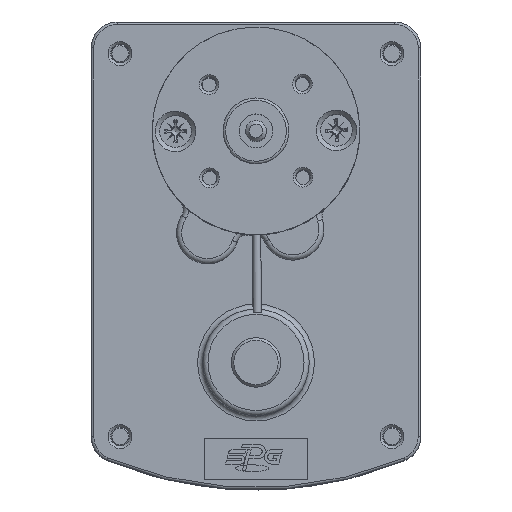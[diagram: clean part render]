
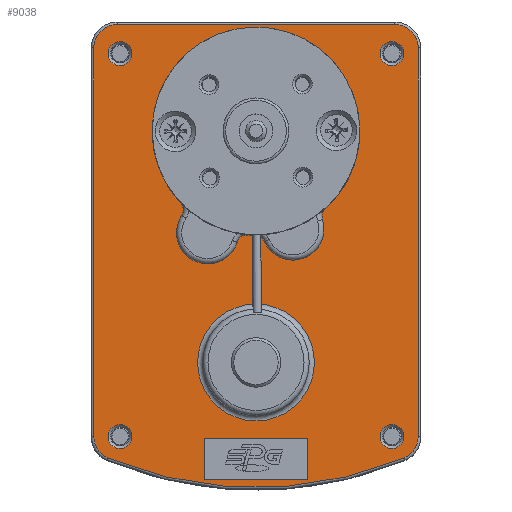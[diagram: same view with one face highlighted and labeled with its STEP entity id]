
A CAD part, top view. The second image highlights one B-rep face of the part: STEP entity #9038.
In plain terms, the highlighted planar face has unit normal (0, 0, 1).
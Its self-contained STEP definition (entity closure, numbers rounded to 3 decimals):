
#296=LINE('',#13695,#772);
#298=LINE('',#13707,#774);
#300=LINE('',#13719,#776);
#445=LINE('',#14296,#921);
#447=LINE('',#14300,#923);
#449=LINE('',#14304,#925);
#451=LINE('',#14307,#927);
#772=VECTOR('',#10724,74.87);
#774=VECTOR('',#10738,53.5);
#776=VECTOR('',#10752,74.87);
#921=VECTOR('',#11233,8.);
#923=VECTOR('',#11237,20.);
#925=VECTOR('',#11241,8.);
#927=VECTOR('',#11245,20.);
#1501=PLANE('',#10108);
#1855=FACE_BOUND('',#3157,.T.);
#1856=FACE_BOUND('',#3158,.T.);
#1857=FACE_BOUND('',#3159,.T.);
#1858=FACE_BOUND('',#3160,.T.);
#1859=FACE_BOUND('',#3161,.T.);
#1860=FACE_BOUND('',#3162,.T.);
#1861=FACE_BOUND('',#3163,.T.);
#2419=FACE_OUTER_BOUND('',#3156,.T.);
#3156=EDGE_LOOP('',(#7999,#8000,#8001,#8002,#8003,#8004,#8005,#8006));
#3157=EDGE_LOOP('',(#8007));
#3158=EDGE_LOOP('',(#8008,#8009,#8010,#8011));
#3159=EDGE_LOOP('',(#8012));
#3160=EDGE_LOOP('',(#8013));
#3161=EDGE_LOOP('',(#8014));
#3162=EDGE_LOOP('',(#8015,#8016,#8017,#8018,#8019,#8020,#8021,#8022));
#3163=EDGE_LOOP('',(#8023));
#3448=CIRCLE('',#9338,4.5);
#3454=CIRCLE('',#9346,4.5);
#3458=CIRCLE('',#9352,4.5);
#3462=CIRCLE('',#9358,4.5);
#3464=CIRCLE('',#9361,74.29);
#3543=CIRCLE('',#9515,2.3);
#3544=CIRCLE('',#9517,2.3);
#3545=CIRCLE('',#9519,2.3);
#3546=CIRCLE('',#9521,2.3);
#3796=CIRCLE('',#10050,6.);
#3798=CIRCLE('',#10053,2.);
#3800=CIRCLE('',#10056,2.);
#3802=CIRCLE('',#10059,20.);
#3804=CIRCLE('',#10062,2.);
#3806=CIRCLE('',#10065,6.);
#3808=CIRCLE('',#10068,2.);
#3810=CIRCLE('',#10071,20.);
#3823=CIRCLE('',#10109,11.25);
#4031=VERTEX_POINT('',#13683);
#4032=VERTEX_POINT('',#13685);
#4034=VERTEX_POINT('',#13691);
#4036=VERTEX_POINT('',#13697);
#4038=VERTEX_POINT('',#13703);
#4040=VERTEX_POINT('',#13709);
#4042=VERTEX_POINT('',#13715);
#4044=VERTEX_POINT('',#13721);
#4204=VERTEX_POINT('',#14281);
#4205=VERTEX_POINT('',#14284);
#4206=VERTEX_POINT('',#14287);
#4207=VERTEX_POINT('',#14290);
#4208=VERTEX_POINT('',#14293);
#4209=VERTEX_POINT('',#14295);
#4210=VERTEX_POINT('',#14299);
#4211=VERTEX_POINT('',#14303);
#4608=VERTEX_POINT('',#16407);
#4609=VERTEX_POINT('',#16409);
#4611=VERTEX_POINT('',#16415);
#4613=VERTEX_POINT('',#16421);
#4615=VERTEX_POINT('',#16427);
#4617=VERTEX_POINT('',#16433);
#4619=VERTEX_POINT('',#16439);
#4621=VERTEX_POINT('',#16445);
#4630=VERTEX_POINT('',#16507);
#4907=EDGE_CURVE('',#4031,#4032,#3448,.T.);
#4912=EDGE_CURVE('',#4032,#4034,#296,.T.);
#4915=EDGE_CURVE('',#4034,#4036,#3454,.T.);
#4918=EDGE_CURVE('',#4036,#4038,#298,.T.);
#4921=EDGE_CURVE('',#4038,#4040,#3458,.T.);
#4924=EDGE_CURVE('',#4040,#4042,#300,.T.);
#4927=EDGE_CURVE('',#4042,#4044,#3462,.T.);
#4929=EDGE_CURVE('',#4044,#4031,#3464,.T.);
#5153=EDGE_CURVE('',#4204,#4204,#3543,.T.);
#5154=EDGE_CURVE('',#4205,#4205,#3544,.T.);
#5155=EDGE_CURVE('',#4206,#4206,#3545,.T.);
#5156=EDGE_CURVE('',#4207,#4207,#3546,.T.);
#5158=EDGE_CURVE('',#4209,#4208,#445,.T.);
#5160=EDGE_CURVE('',#4210,#4209,#447,.T.);
#5162=EDGE_CURVE('',#4211,#4210,#449,.T.);
#5164=EDGE_CURVE('',#4208,#4211,#451,.T.);
#5756=EDGE_CURVE('',#4609,#4608,#3796,.T.);
#5759=EDGE_CURVE('',#4611,#4609,#3798,.T.);
#5763=EDGE_CURVE('',#4608,#4613,#3800,.T.);
#5765=EDGE_CURVE('',#4615,#4611,#3802,.T.);
#5768=EDGE_CURVE('',#4617,#4615,#3804,.T.);
#5771=EDGE_CURVE('',#4619,#4617,#3806,.T.);
#5774=EDGE_CURVE('',#4621,#4619,#3808,.T.);
#5777=EDGE_CURVE('',#4613,#4621,#3810,.T.);
#5801=EDGE_CURVE('',#4630,#4630,#3823,.T.);
#7999=ORIENTED_EDGE('',*,*,#4907,.F.);
#8000=ORIENTED_EDGE('',*,*,#4929,.F.);
#8001=ORIENTED_EDGE('',*,*,#4927,.F.);
#8002=ORIENTED_EDGE('',*,*,#4924,.F.);
#8003=ORIENTED_EDGE('',*,*,#4921,.F.);
#8004=ORIENTED_EDGE('',*,*,#4918,.F.);
#8005=ORIENTED_EDGE('',*,*,#4915,.F.);
#8006=ORIENTED_EDGE('',*,*,#4912,.F.);
#8007=ORIENTED_EDGE('',*,*,#5153,.F.);
#8008=ORIENTED_EDGE('',*,*,#5158,.T.);
#8009=ORIENTED_EDGE('',*,*,#5164,.T.);
#8010=ORIENTED_EDGE('',*,*,#5162,.T.);
#8011=ORIENTED_EDGE('',*,*,#5160,.T.);
#8012=ORIENTED_EDGE('',*,*,#5156,.F.);
#8013=ORIENTED_EDGE('',*,*,#5155,.F.);
#8014=ORIENTED_EDGE('',*,*,#5154,.F.);
#8015=ORIENTED_EDGE('',*,*,#5768,.T.);
#8016=ORIENTED_EDGE('',*,*,#5765,.T.);
#8017=ORIENTED_EDGE('',*,*,#5759,.T.);
#8018=ORIENTED_EDGE('',*,*,#5756,.T.);
#8019=ORIENTED_EDGE('',*,*,#5763,.T.);
#8020=ORIENTED_EDGE('',*,*,#5777,.T.);
#8021=ORIENTED_EDGE('',*,*,#5774,.T.);
#8022=ORIENTED_EDGE('',*,*,#5771,.T.);
#8023=ORIENTED_EDGE('',*,*,#5801,.F.);
#9038=ADVANCED_FACE('',(#2419,#1855,#1856,#1857,#1858,#1859,#1860,#1861),
#1501,.T.);
#9338=AXIS2_PLACEMENT_3D('',#13686,#10713,#10714);
#9346=AXIS2_PLACEMENT_3D('',#13701,#10731,#10732);
#9352=AXIS2_PLACEMENT_3D('',#13713,#10745,#10746);
#9358=AXIS2_PLACEMENT_3D('',#13725,#10759,#10760);
#9361=AXIS2_PLACEMENT_3D('',#13728,#10765,#10766);
#9515=AXIS2_PLACEMENT_3D('',#14282,#11216,#11217);
#9517=AXIS2_PLACEMENT_3D('',#14285,#11220,#11221);
#9519=AXIS2_PLACEMENT_3D('',#14288,#11224,#11225);
#9521=AXIS2_PLACEMENT_3D('',#14291,#11228,#11229);
#10050=AXIS2_PLACEMENT_3D('',#16410,#12504,#12505);
#10053=AXIS2_PLACEMENT_3D('',#16416,#12511,#12512);
#10056=AXIS2_PLACEMENT_3D('',#16423,#12519,#12520);
#10059=AXIS2_PLACEMENT_3D('',#16428,#12525,#12526);
#10062=AXIS2_PLACEMENT_3D('',#16434,#12532,#12533);
#10065=AXIS2_PLACEMENT_3D('',#16440,#12539,#12540);
#10068=AXIS2_PLACEMENT_3D('',#16446,#12546,#12547);
#10071=AXIS2_PLACEMENT_3D('',#16450,#12553,#12554);
#10108=AXIS2_PLACEMENT_3D('',#16506,#12638,#12639);
#10109=AXIS2_PLACEMENT_3D('',#16508,#12640,#12641);
#10713=DIRECTION('center_axis',(0.,0.,-1.));
#10714=DIRECTION('ref_axis',(-0.832,-0.555,0.));
#10724=DIRECTION('',(0.,1.,0.));
#10731=DIRECTION('center_axis',(0.,0.,-1.));
#10732=DIRECTION('ref_axis',(-0.707,0.707,0.));
#10738=DIRECTION('',(1.,0.,0.));
#10745=DIRECTION('center_axis',(0.,0.,-1.));
#10746=DIRECTION('ref_axis',(0.707,0.707,0.));
#10752=DIRECTION('',(0.,-1.,0.));
#10759=DIRECTION('center_axis',(0.,0.,-1.));
#10760=DIRECTION('ref_axis',(0.832,-0.555,0.));
#10765=DIRECTION('center_axis',(0.,0.,-1.));
#10766=DIRECTION('ref_axis',(0.,-1.,0.));
#11216=DIRECTION('center_axis',(0.,0.,1.));
#11217=DIRECTION('ref_axis',(1.,0.,0.));
#11220=DIRECTION('center_axis',(0.,0.,1.));
#11221=DIRECTION('ref_axis',(1.,0.,0.));
#11224=DIRECTION('center_axis',(0.,0.,1.));
#11225=DIRECTION('ref_axis',(1.,0.,0.));
#11228=DIRECTION('center_axis',(0.,0.,1.));
#11229=DIRECTION('ref_axis',(1.,0.,0.));
#11233=DIRECTION('',(0.,1.,0.));
#11237=DIRECTION('',(-1.,0.,0.));
#11241=DIRECTION('',(0.,-1.,0.));
#11245=DIRECTION('',(1.,0.,0.));
#12504=DIRECTION('center_axis',(0.,0.,-1.));
#12505=DIRECTION('ref_axis',(0.98,0.197,0.));
#12511=DIRECTION('center_axis',(0.,0.,1.));
#12512=DIRECTION('ref_axis',(-0.965,0.261,0.));
#12519=DIRECTION('center_axis',(0.,0.,1.));
#12520=DIRECTION('ref_axis',(0.551,0.835,0.));
#12525=DIRECTION('center_axis',(0.,0.,-1.));
#12526=DIRECTION('ref_axis',(-0.615,0.789,0.));
#12532=DIRECTION('center_axis',(0.,0.,1.));
#12533=DIRECTION('ref_axis',(0.996,0.086,0.));
#12539=DIRECTION('center_axis',(0.,0.,-1.));
#12540=DIRECTION('ref_axis',(0.656,-0.755,0.));
#12546=DIRECTION('center_axis',(0.,0.,1.));
#12547=DIRECTION('ref_axis',(-0.558,0.83,0.));
#12553=DIRECTION('center_axis',(0.,0.,-1.));
#12554=DIRECTION('ref_axis',(0.167,0.986,0.));
#12638=DIRECTION('center_axis',(0.,0.,1.));
#12639=DIRECTION('ref_axis',(1.,0.,0.));
#12640=DIRECTION('center_axis',(0.,0.,1.));
#12641=DIRECTION('ref_axis',(-1.,0.,0.));
#13683=CARTESIAN_POINT('',(-28.475,-69.226,0.));
#13685=CARTESIAN_POINT('',(-31.25,-65.07,0.));
#13686=CARTESIAN_POINT('Origin',(-26.75,-65.07,0.));
#13691=CARTESIAN_POINT('',(-31.25,9.8,0.));
#13695=CARTESIAN_POINT('',(-31.25,-65.07,0.));
#13697=CARTESIAN_POINT('',(-26.75,14.3,0.));
#13701=CARTESIAN_POINT('Origin',(-26.75,9.8,0.));
#13703=CARTESIAN_POINT('',(26.75,14.3,0.));
#13707=CARTESIAN_POINT('',(-26.75,14.3,0.));
#13709=CARTESIAN_POINT('',(31.25,9.8,0.));
#13713=CARTESIAN_POINT('Origin',(26.75,9.8,0.));
#13715=CARTESIAN_POINT('',(31.25,-65.07,0.));
#13719=CARTESIAN_POINT('',(31.25,9.8,0.));
#13721=CARTESIAN_POINT('',(28.475,-69.226,0.));
#13725=CARTESIAN_POINT('Origin',(26.75,-65.07,0.));
#13728=CARTESIAN_POINT('Origin',(0.,-0.61,0.));
#14281=CARTESIAN_POINT('',(23.89,-65.07,0.));
#14282=CARTESIAN_POINT('Origin',(26.19,-65.07,0.));
#14284=CARTESIAN_POINT('',(23.89,8.71,0.));
#14285=CARTESIAN_POINT('Origin',(26.19,8.71,0.));
#14287=CARTESIAN_POINT('',(-28.49,8.71,0.));
#14288=CARTESIAN_POINT('Origin',(-26.19,8.71,0.));
#14290=CARTESIAN_POINT('',(-28.49,-65.07,0.));
#14291=CARTESIAN_POINT('Origin',(-26.19,-65.07,0.));
#14293=CARTESIAN_POINT('',(-10.,-65.4,0.));
#14295=CARTESIAN_POINT('',(-10.,-73.4,0.));
#14296=CARTESIAN_POINT('',(-10.,-73.4,0.));
#14299=CARTESIAN_POINT('',(10.,-73.4,0.));
#14300=CARTESIAN_POINT('',(10.,-73.4,0.));
#14303=CARTESIAN_POINT('',(10.,-65.4,0.));
#14304=CARTESIAN_POINT('',(10.,-65.4,0.));
#14307=CARTESIAN_POINT('',(-10.,-65.4,0.));
#16407=CARTESIAN_POINT('',(1.607,-27.494,0.));
#16409=CARTESIAN_POINT('',(12.816,-23.256,0.));
#16410=CARTESIAN_POINT('Origin',(7.1,-25.08,0.));
#16415=CARTESIAN_POINT('',(13.383,-21.162,0.));
#16416=CARTESIAN_POINT('Origin',(14.722,-22.649,0.));
#16421=CARTESIAN_POINT('',(-0.204,-26.299,0.));
#16423=CARTESIAN_POINT('Origin',(-0.224,-28.299,0.));
#16427=CARTESIAN_POINT('',(-14.551,-20.021,0.));
#16428=CARTESIAN_POINT('Origin',(0.,-6.3,
0.));
#16433=CARTESIAN_POINT('',(-14.337,-22.495,0.));
#16434=CARTESIAN_POINT('Origin',(-16.007,-21.393,0.));
#16439=CARTESIAN_POINT('',(-3.614,-27.625,0.));
#16440=CARTESIAN_POINT('Origin',(-9.33,-25.8,0.));
#16445=CARTESIAN_POINT('',(-1.554,-26.24,0.));
#16446=CARTESIAN_POINT('Origin',(-1.709,-28.234,0.));
#16450=CARTESIAN_POINT('Origin',(0.,-6.3,
0.));
#16506=CARTESIAN_POINT('Origin',(0.,-27.996,0.));
#16507=CARTESIAN_POINT('',(11.25,-50.8,0.));
#16508=CARTESIAN_POINT('Origin',(0.,-50.8,0.));
